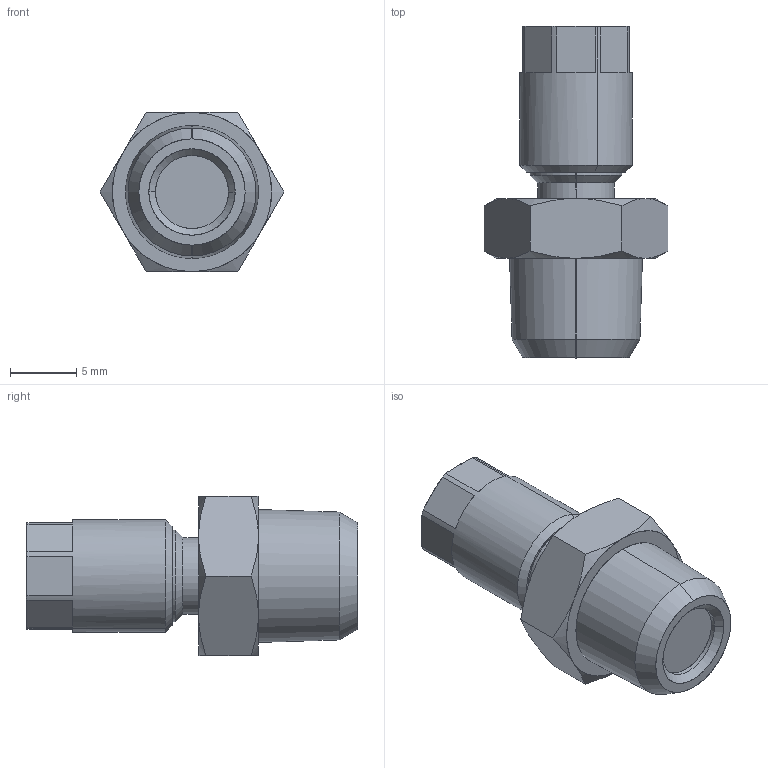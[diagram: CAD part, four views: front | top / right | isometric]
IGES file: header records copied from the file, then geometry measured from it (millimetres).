
Start section: SolidWorks IGES file using analytic representation for surfaces
Global section: file name: K:\Disegni Esecutivi\Serie 1000\Complessivi Serie 1000\1000\1000_iges\0100000002A.IGS; native system: SolidWorks 2008; preprocessor: SolidWorks 2008; author: cad05; date: 090121.170045; units: millimetre
Bounding box: 13.86 x 25 x 12 mm (x, y, z)
Surface area: 1029.8 mm2 (no closed solid volume)
Topology: 0 solids, 0 shells, 74 faces, 849 edges, 849 vertices
Faces by surface type: revolution 43, bspline 31
